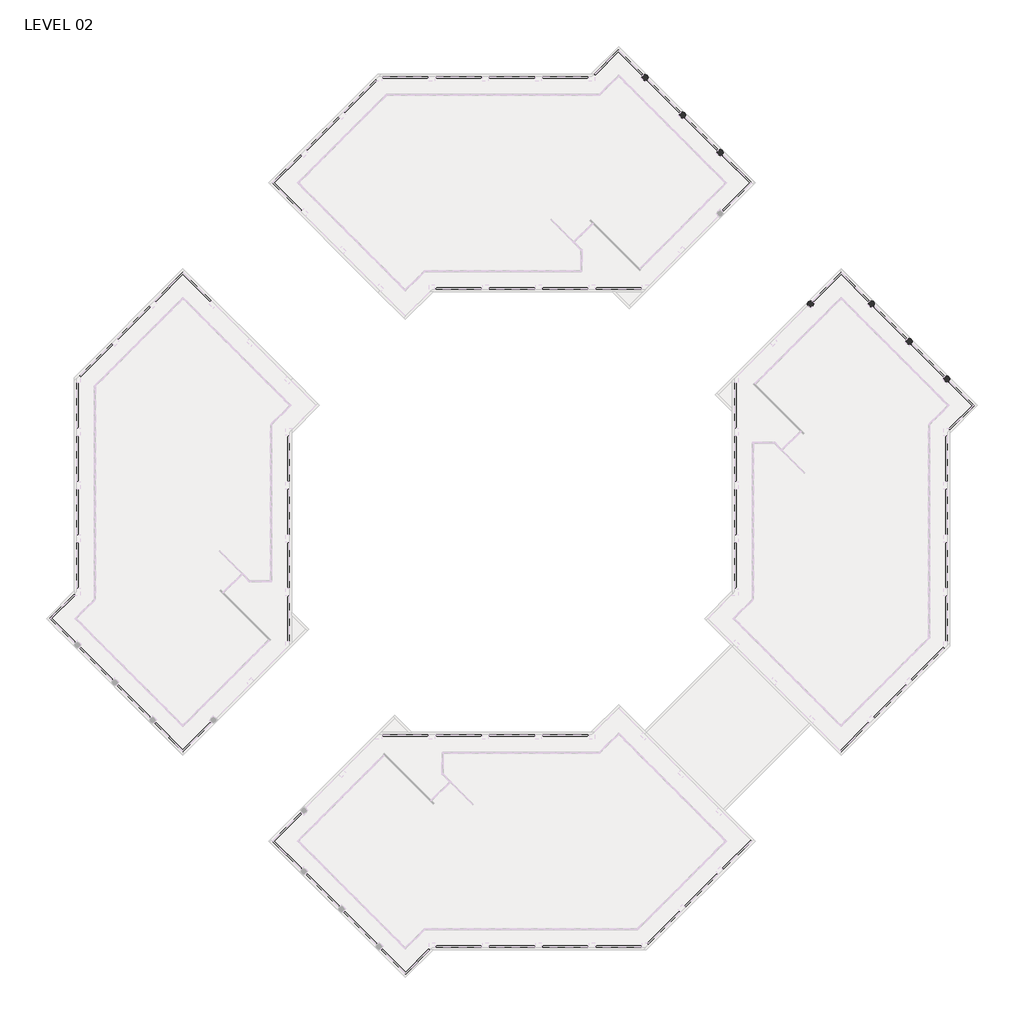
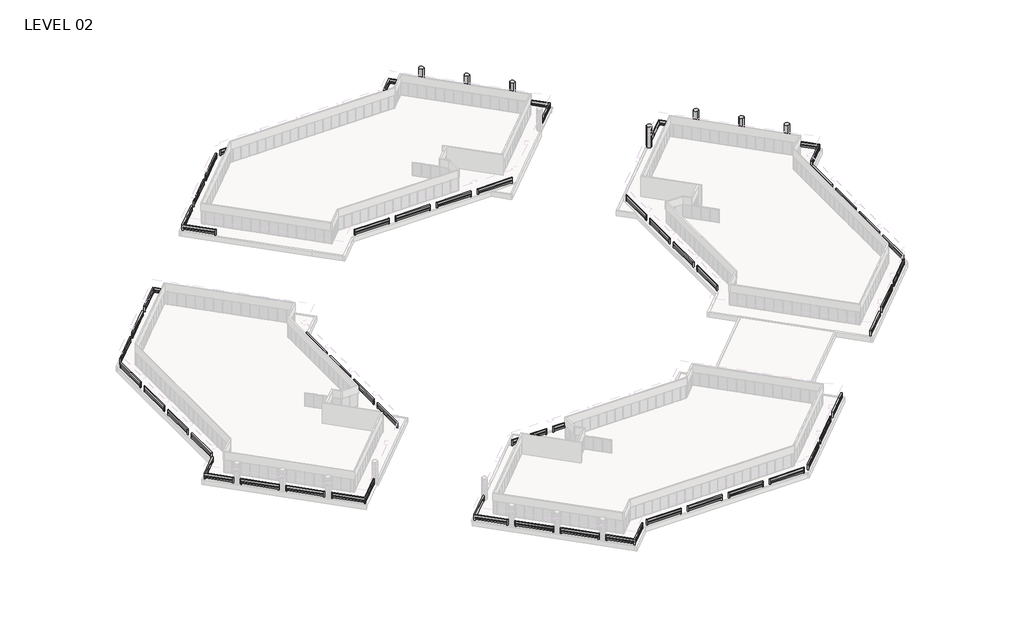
# One storey, part 19 of 19: 60 railings, 7 columns.
"""IFC4 building model written with IfcOpenShell, lengths in millimetres."""

from ifc_helpers import new_model, si_unit, point, frame, frame_2d, origin, place, context, project, spatial, circle_curve, trimmed, segment, composite_curve, outline, extrude, transform, mapped, element, save
from ifc_brep_helpers import plane_surface, cylinder_surface, advanced_brep
from components import railing_25_railing_25_railing_c438842d, railing_25_railing_25_railing_fa361975, equal_corner_railing_equal_corner_railing_5b2954d8, equal_corner_railing_equal_corner_railing_7f9a76b9, equal_corner_railing_demo_equal_corner_railing_demo_e16467f9, equal_corner_railing_demo_equal_corner_railing_demo_8632b08c, equal_corner_railing_small_equal_corner_railing_small_9601f2c6, equal_corner_railing_small_equal_corner_railing_small_101afe3f

model = new_model("IFC4")

# Units and contexts
model_context = context("Model", 3, world=origin())
ifc_project = project(units=[si_unit("LENGTHUNIT", "METRE", prefix="MILLI")], contexts=[model_context])

# Site, building, storey
site = spatial("IfcSite", under=ifc_project)
building = spatial("IfcBuilding", under=site)
storey = spatial("IfcBuildingStorey", under=building, Name="LEVEL 02", Elevation=4140.2)

# Columns
placement = place(None, origin())
element("IfcColumn", 1, ObjectType="Round Column : 36\" Diameter", at=placement, inside=storey, context=model_context, shape_type="SweptSolid", body=[
    extrude(outline(composite_curve([segment(trimmed(circle_curve(frame_2d((72511.6267654, 87272.1802036)), 457.2), [point((72511.6267654, 86814.9802036))], [point((72054.4267654, 87272.1802036))], False, "CARTESIAN"), True, "CONTINUOUS"), segment(trimmed(circle_curve(frame_2d((72511.6267654, 87272.1802036)), 457.2), [point((72054.4267654, 87272.1802036))], [point((72511.6267654, 87729.3802036))], False, "CARTESIAN"), True, "CONTINUOUS"), segment(trimmed(circle_curve(frame_2d((72511.6267654, 87272.1802036)), 457.2), [point((72511.6267654, 87729.3802036))], [point((72511.6267654, 86814.9802036))], False, "CARTESIAN"), True, "CONTINUOUS")], self_intersect=False)), frame((0.0, 0.0, 4140.2), z_axis=(0.0, 0.0, 1.0), x_axis=(1.0, 0.0, 0.0)), (0.0, 0.0, 1.0), 4140.2),
])
element("IfcColumn", 2, ObjectType="Round Column : 36\" Diameter", at=placement, inside=storey, context=model_context, shape_type="AdvancedBrep", body=[
    advanced_brep(
    [(80730.8926674, 87272.0755396, 4140.2), (81188.0926674, 87729.2755396, 4140.2), (81188.0926674, 86814.8755396, 4140.2), (81188.0926674, 87729.2755396, 6731.0), (81511.3818878, 87595.3647599, 6731.0), (81600.6557409, 87075.038613, 6731.0), (81600.6557409, 87075.038613, 7721.6), (81511.3818878, 87595.3647599, 7721.6), (81188.0926674, 87729.2755396, 7721.6), (81188.0926674, 87729.2755396, 8280.4), (81188.0926674, 86814.8755396, 8280.4), (80730.8926674, 87272.0755396, 8280.4), (80991.0557409, 87684.638613, 7721.6), (80991.0557409, 87684.638613, 6731.0)],
    [
        (0, 1, circle_curve(frame((81188.0926674, 87272.0755396, 4140.2), z_axis=(0.0, 0.0, -1.0), x_axis=(0.0, 1.0, 0.0)), 457.2)),
        (1, 2, circle_curve(frame((81188.0926674, 87272.0755396, 4140.2), z_axis=(0.0, 0.0, -1.0), x_axis=(0.0, 1.0, 0.0)), 457.2)),
        (2, 0, circle_curve(frame((81188.0926674, 87272.0755396, 4140.2), z_axis=(0.0, 0.0, -1.0), x_axis=(0.0, 1.0, 0.0)), 457.2)),
        (1, 3),
        (3, 4, circle_curve(frame((81188.0926674, 87272.0755396, 6731.0), z_axis=(0.0, 0.0, -1.0), x_axis=(0.0, 1.0, 0.0)), 457.2)),
        (4, 5, circle_curve(frame((81188.0926674, 87272.0755396, 6731.0), z_axis=(0.0, 0.0, -1.0), x_axis=(0.0, 1.0, 0.0)), 457.2)),
        (5, 6),
        (6, 7, circle_curve(frame((81188.0926674, 87272.0755396, 7721.6), z_axis=(0.0, 0.0, 1.0), x_axis=(0.0, 1.0, 0.0)), 457.2)),
        (7, 8, circle_curve(frame((81188.0926674, 87272.0755396, 7721.6), z_axis=(0.0, 0.0, 1.0), x_axis=(0.0, 1.0, 0.0)), 457.2)),
        (8, 9),
        (9, 10, circle_curve(frame((81188.0926674, 87272.0755396, 8280.4), z_axis=(0.0, 0.0, -1.0), x_axis=(0.0, 1.0, 0.0)), 457.2)),
        (10, 2),
        (10, 11, circle_curve(frame((81188.0926674, 87272.0755396, 8280.4), z_axis=(0.0, 0.0, -1.0), x_axis=(0.0, 1.0, 0.0)), 457.2)),
        (11, 0),
        (11, 9, circle_curve(frame((81188.0926674, 87272.0755396, 8280.4), z_axis=(0.0, 0.0, -1.0), x_axis=(0.0, 1.0, 0.0)), 457.2)),
        (8, 12, circle_curve(frame((81188.0926674, 87272.0755396, 7721.6), z_axis=(0.0, 0.0, 1.0), x_axis=(0.0, 1.0, 0.0)), 457.2)),
        (12, 13),
        (13, 3, circle_curve(frame((81188.0926674, 87272.0755396, 6731.0), z_axis=(0.0, 0.0, -1.0), x_axis=(0.0, 1.0, 0.0)), 457.2)),
        (5, 13),
        (12, 6),
    ],
    [
        plane_surface(frame((81188.0926674, 87729.2755396, 4140.2), z_axis=(0.0, 0.0, -1.0), x_axis=(1.0, 0.0, 0.0))),
        cylinder_surface(frame((81188.0926674, 87272.0755396, 4140.2), z_axis=(0.0, 0.0, 1.0), x_axis=(0.0, 1.0, 0.0)), 457.2),
        plane_surface(frame((81188.0926674, 87729.2755396, 8280.4), z_axis=(0.0, 0.0, 1.0), x_axis=(-1.0, 0.0, 0.0))),
        plane_surface(frame((96133.2529123, 72542.4414416, 6731.0), z_axis=(0.7071067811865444, 0.7071067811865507, 0.0), x_axis=(0.7071067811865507, -0.7071067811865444, 0.0))),
        plane_surface(frame((96241.0159857, 72865.730662, 6731.0), z_axis=(0.0, 0.0, 1.0000000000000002), x_axis=(-0.7071067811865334, -0.7071067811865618, 0.0))),
        plane_surface(frame((76957.6227899, 92149.1238578, 7721.6), z_axis=(0.0, 0.0, -1.0000000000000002), x_axis=(-0.7071067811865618, -0.7071067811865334, 0.0))),
    ],
    [
        (0, [[1, 2, 3]]),
        (1, [[-2, 4, 5, 6, 7, 8, 9, 10, 11, 12]]),
        (1, [[-3, -12, 13, 14]]),
        (1, [[-1, -14, 15, -10, 16, 17, 18, -4]]),
        (2, [[-11, -15, -13]]),
        (3, [[19, -17, 20, -7]]),
        (4, [[-19, -6, -5, -18]]),
        (5, [[-20, -16, -9, -8]]),
    ],
),
])
element("IfcColumn", 3, ObjectType="Round Column : 36\" Diameter", at=placement, inside=storey, context=model_context, shape_type="AdvancedBrep", body=[
    advanced_brep(
    [(86118.8676674, 81884.1005396, 4140.2), (86576.0676674, 82341.3005396, 4140.2), (86576.0676674, 81426.9005396, 4140.2), (86576.0676674, 82341.3005396, 6731.0), (86899.3568878, 82207.3897599, 6731.0), (86988.6307409, 81687.063613, 6731.0), (86988.6307409, 81687.063613, 7721.6), (86899.3568878, 82207.3897599, 7721.6), (86576.0676674, 82341.3005396, 7721.6), (86576.0676674, 82341.3005396, 8280.4), (86576.0676674, 81426.9005396, 8280.4), (86118.8676674, 81884.1005396, 8280.4), (86379.0307409, 82296.663613, 7721.6), (86379.0307409, 82296.663613, 6731.0)],
    [
        (0, 1, circle_curve(frame((86576.0676674, 81884.1005396, 4140.2), z_axis=(0.0, 0.0, -1.0), x_axis=(0.0, 1.0, 0.0)), 457.2)),
        (1, 2, circle_curve(frame((86576.0676674, 81884.1005396, 4140.2), z_axis=(0.0, 0.0, -1.0), x_axis=(0.0, 1.0, 0.0)), 457.2)),
        (2, 0, circle_curve(frame((86576.0676674, 81884.1005396, 4140.2), z_axis=(0.0, 0.0, -1.0), x_axis=(0.0, 1.0, 0.0)), 457.2)),
        (1, 3),
        (3, 4, circle_curve(frame((86576.0676674, 81884.1005396, 6731.0), z_axis=(0.0, 0.0, -1.0), x_axis=(0.0, 1.0, 0.0)), 457.2)),
        (4, 5, circle_curve(frame((86576.0676674, 81884.1005396, 6731.0), z_axis=(0.0, 0.0, -1.0), x_axis=(0.0, 1.0, 0.0)), 457.2)),
        (5, 6),
        (6, 7, circle_curve(frame((86576.0676674, 81884.1005396, 7721.6), z_axis=(0.0, 0.0, 1.0), x_axis=(0.0, 1.0, 0.0)), 457.2)),
        (7, 8, circle_curve(frame((86576.0676674, 81884.1005396, 7721.6), z_axis=(0.0, 0.0, 1.0), x_axis=(0.0, 1.0, 0.0)), 457.2)),
        (8, 9),
        (9, 10, circle_curve(frame((86576.0676674, 81884.1005396, 8280.4), z_axis=(0.0, 0.0, -1.0), x_axis=(0.0, 1.0, 0.0)), 457.2)),
        (10, 2),
        (10, 11, circle_curve(frame((86576.0676674, 81884.1005396, 8280.4), z_axis=(0.0, 0.0, -1.0), x_axis=(0.0, 1.0, 0.0)), 457.2)),
        (11, 0),
        (11, 9, circle_curve(frame((86576.0676674, 81884.1005396, 8280.4), z_axis=(0.0, 0.0, -1.0), x_axis=(0.0, 1.0, 0.0)), 457.2)),
        (8, 12, circle_curve(frame((86576.0676674, 81884.1005396, 7721.6), z_axis=(0.0, 0.0, 1.0), x_axis=(0.0, 1.0, 0.0)), 457.2)),
        (12, 13),
        (13, 3, circle_curve(frame((86576.0676674, 81884.1005396, 6731.0), z_axis=(0.0, 0.0, -1.0), x_axis=(0.0, 1.0, 0.0)), 457.2)),
        (5, 13),
        (12, 6),
    ],
    [
        plane_surface(frame((86576.0676674, 82341.3005396, 4140.2), z_axis=(0.0, 0.0, -1.0), x_axis=(1.0, 0.0, 0.0))),
        cylinder_surface(frame((86576.0676674, 81884.1005396, 4140.2), z_axis=(0.0, 0.0, 1.0), x_axis=(0.0, 1.0, 0.0)), 457.2),
        plane_surface(frame((86576.0676674, 82341.3005396, 8280.4), z_axis=(0.0, 0.0, 1.0), x_axis=(-1.0, 0.0, 0.0))),
        plane_surface(frame((96133.2529123, 72542.4414416, 6731.0), z_axis=(0.7071067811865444, 0.7071067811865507, 0.0), x_axis=(0.7071067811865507, -0.7071067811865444, 0.0))),
        plane_surface(frame((96241.0159857, 72865.730662, 6731.0), z_axis=(0.0, 0.0, 1.0000000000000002), x_axis=(-0.7071067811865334, -0.7071067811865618, 0.0))),
        plane_surface(frame((76957.6227899, 92149.1238578, 7721.6), z_axis=(0.0, 0.0, -1.0000000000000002), x_axis=(-0.7071067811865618, -0.7071067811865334, 0.0))),
    ],
    [
        (0, [[1, 2, 3]]),
        (1, [[-2, 4, 5, 6, 7, 8, 9, 10, 11, 12]]),
        (1, [[-3, -12, 13, 14]]),
        (1, [[-1, -14, 15, -10, 16, 17, 18, -4]]),
        (2, [[-11, -15, -13]]),
        (3, [[19, -17, 20, -7]]),
        (4, [[-19, -6, -5, -18]]),
        (5, [[-20, -16, -9, -8]]),
    ],
),
])
element("IfcColumn", 4, ObjectType="Round Column : 36\" Diameter", at=placement, inside=storey, context=model_context, shape_type="AdvancedBrep", body=[
    advanced_brep(
    [(91477.0847164, 76525.8834906, 4140.2), (91934.2847164, 76983.0834906, 4140.2), (91934.2847164, 76068.6834906, 4140.2), (91934.2847164, 76983.0834906, 6731.0), (92257.5739368, 76849.1727109, 6731.0), (92346.8477899, 76328.846564, 6731.0), (92346.8477899, 76328.846564, 7721.6), (92257.5739368, 76849.1727109, 7721.6), (91934.2847164, 76983.0834906, 7721.6), (91934.2847164, 76983.0834906, 8280.4), (91934.2847164, 76068.6834906, 8280.4), (91477.0847164, 76525.8834906, 8280.4), (91737.2477899, 76938.446564, 7721.6), (91737.2477899, 76938.446564, 6731.0)],
    [
        (0, 1, circle_curve(frame((91934.2847164, 76525.8834906, 4140.2), z_axis=(0.0, 0.0, -1.0), x_axis=(0.0, 1.0, 0.0)), 457.2)),
        (1, 2, circle_curve(frame((91934.2847164, 76525.8834906, 4140.2), z_axis=(0.0, 0.0, -1.0), x_axis=(0.0, 1.0, 0.0)), 457.2)),
        (2, 0, circle_curve(frame((91934.2847164, 76525.8834906, 4140.2), z_axis=(0.0, 0.0, -1.0), x_axis=(0.0, 1.0, 0.0)), 457.2)),
        (1, 3),
        (3, 4, circle_curve(frame((91934.2847164, 76525.8834906, 6731.0), z_axis=(0.0, 0.0, -1.0), x_axis=(0.0, 1.0, 0.0)), 457.2)),
        (4, 5, circle_curve(frame((91934.2847164, 76525.8834906, 6731.0), z_axis=(0.0, 0.0, -1.0), x_axis=(0.0, 1.0, 0.0)), 457.2)),
        (5, 6),
        (6, 7, circle_curve(frame((91934.2847164, 76525.8834906, 7721.6), z_axis=(0.0, 0.0, 1.0), x_axis=(0.0, 1.0, 0.0)), 457.2)),
        (7, 8, circle_curve(frame((91934.2847164, 76525.8834906, 7721.6), z_axis=(0.0, 0.0, 1.0), x_axis=(0.0, 1.0, 0.0)), 457.2)),
        (8, 9),
        (9, 10, circle_curve(frame((91934.2847164, 76525.8834906, 8280.4), z_axis=(0.0, 0.0, -1.0), x_axis=(0.0, 1.0, 0.0)), 457.2)),
        (10, 2),
        (10, 11, circle_curve(frame((91934.2847164, 76525.8834906, 8280.4), z_axis=(0.0, 0.0, -1.0), x_axis=(0.0, 1.0, 0.0)), 457.2)),
        (11, 0),
        (11, 9, circle_curve(frame((91934.2847164, 76525.8834906, 8280.4), z_axis=(0.0, 0.0, -1.0), x_axis=(0.0, 1.0, 0.0)), 457.2)),
        (8, 12, circle_curve(frame((91934.2847164, 76525.8834906, 7721.6), z_axis=(0.0, 0.0, 1.0), x_axis=(0.0, 1.0, 0.0)), 457.2)),
        (12, 13),
        (13, 3, circle_curve(frame((91934.2847164, 76525.8834906, 6731.0), z_axis=(0.0, 0.0, -1.0), x_axis=(0.0, 1.0, 0.0)), 457.2)),
        (5, 13),
        (12, 6),
    ],
    [
        plane_surface(frame((91934.2847164, 76983.0834906, 4140.2), z_axis=(0.0, 0.0, -1.0), x_axis=(1.0, 0.0, 0.0))),
        cylinder_surface(frame((91934.2847164, 76525.8834906, 4140.2), z_axis=(0.0, 0.0, 1.0), x_axis=(0.0, 1.0, 0.0)), 457.2),
        plane_surface(frame((91934.2847164, 76983.0834906, 8280.4), z_axis=(0.0, 0.0, 1.0), x_axis=(-1.0, 0.0, 0.0))),
        plane_surface(frame((96133.2529123, 72542.4414416, 6731.0), z_axis=(0.7071067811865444, 0.7071067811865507, 0.0), x_axis=(0.7071067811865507, -0.7071067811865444, 0.0))),
        plane_surface(frame((96241.0159857, 72865.730662, 6731.0), z_axis=(0.0, 0.0, 1.0000000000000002), x_axis=(-0.7071067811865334, -0.7071067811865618, 0.0))),
        plane_surface(frame((76957.6227899, 92149.1238578, 7721.6), z_axis=(0.0, 0.0, -1.0000000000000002), x_axis=(-0.7071067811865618, -0.7071067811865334, 0.0))),
    ],
    [
        (0, [[1, 2, 3]]),
        (1, [[-2, 4, 5, 6, 7, 8, 9, 10, 11, 12]]),
        (1, [[-3, -12, 13, 14]]),
        (1, [[-1, -14, 15, -10, 16, 17, 18, -4]]),
        (2, [[-11, -15, -13]]),
        (3, [[19, -17, 20, -7]]),
        (4, [[-19, -6, -5, -18]]),
        (5, [[-20, -16, -9, -8]]),
    ],
),
])
element("IfcColumn", 5, ObjectType="Round Column : 36\" Diameter", at=placement, inside=storey, context=model_context, shape_type="AdvancedBrep", body=[
    advanced_brep(
    [(60037.257951, 108880.110256, 4140.2), (59580.057951, 108422.910256, 4140.2), (59122.857951, 108880.110256, 4140.2), (59122.857951, 108880.110256, 8280.4), (60037.257951, 108880.110256, 8280.4), (60037.257951, 108880.110256, 7721.6), (59903.3471714, 109203.3994763, 7721.6), (59383.0210245, 109292.6733294, 7721.6), (59383.0210245, 109292.6733294, 6731.0), (59903.3471714, 109203.3994763, 6731.0), (60037.257951, 108880.110256, 6731.0), (59580.057951, 108422.910256, 8280.4), (59992.6210245, 108683.0733294, 6731.0), (59992.6210245, 108683.0733294, 7721.6)],
    [
        (0, 1, circle_curve(frame((59580.057951, 108880.110256, 4140.2), z_axis=(0.0, 0.0, -1.0), x_axis=(1.0, 0.0, 0.0)), 457.2)),
        (1, 2, circle_curve(frame((59580.057951, 108880.110256, 4140.2), z_axis=(0.0, 0.0, -1.0), x_axis=(1.0, 0.0, 0.0)), 457.2)),
        (2, 0, circle_curve(frame((59580.057951, 108880.110256, 4140.2), z_axis=(0.0, 0.0, -1.0), x_axis=(1.0, 0.0, 0.0)), 457.2)),
        (2, 3),
        (3, 4, circle_curve(frame((59580.057951, 108880.110256, 8280.4), z_axis=(0.0, 0.0, -1.0), x_axis=(1.0, 0.0, 0.0)), 457.2)),
        (4, 5),
        (5, 6, circle_curve(frame((59580.057951, 108880.110256, 7721.6), z_axis=(0.0, 0.0, 1.0), x_axis=(1.0, 0.0, 0.0)), 457.2)),
        (6, 7, circle_curve(frame((59580.057951, 108880.110256, 7721.6), z_axis=(0.0, 0.0, 1.0), x_axis=(1.0, 0.0, 0.0)), 457.2)),
        (7, 8),
        (8, 9, circle_curve(frame((59580.057951, 108880.110256, 6731.0), z_axis=(0.0, 0.0, -1.0), x_axis=(1.0, 0.0, 0.0)), 457.2)),
        (9, 10, circle_curve(frame((59580.057951, 108880.110256, 6731.0), z_axis=(0.0, 0.0, -1.0), x_axis=(1.0, 0.0, 0.0)), 457.2)),
        (10, 0),
        (1, 11),
        (11, 3, circle_curve(frame((59580.057951, 108880.110256, 8280.4), z_axis=(0.0, 0.0, -1.0), x_axis=(1.0, 0.0, 0.0)), 457.2)),
        (10, 12, circle_curve(frame((59580.057951, 108880.110256, 6731.0), z_axis=(0.0, 0.0, -1.0), x_axis=(1.0, 0.0, 0.0)), 457.2)),
        (12, 13),
        (13, 5, circle_curve(frame((59580.057951, 108880.110256, 7721.6), z_axis=(0.0, 0.0, 1.0), x_axis=(1.0, 0.0, 0.0)), 457.2)),
        (4, 11, circle_curve(frame((59580.057951, 108880.110256, 8280.4), z_axis=(0.0, 0.0, -1.0), x_axis=(1.0, 0.0, 0.0)), 457.2)),
        (7, 13),
        (12, 8),
    ],
    [
        plane_surface(frame((60037.257951, 108880.110256, 4140.2), z_axis=(0.0, 0.0, -1.0), x_axis=(0.0, 1.0, 0.0))),
        cylinder_surface(frame((59580.057951, 108880.110256, 4140.2), z_axis=(0.0, 0.0, 1.0), x_axis=(1.0, 0.0, 0.0)), 457.2),
        plane_surface(frame((60037.257951, 108880.110256, 8280.4), z_axis=(0.0, 0.0, 1.0), x_axis=(0.0, -1.0, 0.0))),
        plane_surface(frame((44850.4238531, 123825.2705008, 6731.0), z_axis=(0.7071067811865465, 0.7071067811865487, 0.0), x_axis=(0.7071067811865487, -0.7071067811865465, 0.0))),
        plane_surface(frame((44958.1869265, 123717.5074273, 6731.0), z_axis=(0.0, 0.0, 1.0000000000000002), x_axis=(0.7071067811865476, 0.7071067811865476, 0.0))),
        plane_surface(frame((64241.5801224, 104434.1142315, 7721.6), z_axis=(0.0, 0.0, -1.0000000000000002), x_axis=(0.7071067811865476, 0.7071067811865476, 0.0))),
    ],
    [
        (0, [[1, 2, 3]]),
        (1, [[-3, 4, 5, 6, 7, 8, 9, 10, 11, 12]]),
        (1, [[-2, 13, 14, -4]]),
        (1, [[-1, -12, 15, 16, 17, -6, 18, -13]]),
        (2, [[-5, -14, -18]]),
        (3, [[19, -16, 20, -9]]),
        (4, [[-20, -15, -11, -10]]),
        (5, [[-19, -8, -7, -17]]),
    ],
),
])
element("IfcColumn", 6, ObjectType="Round Column : 36\" Diameter", at=placement, inside=storey, context=model_context, shape_type="AdvancedBrep", body=[
    advanced_brep(
    [(54649.282951, 114268.085256, 4140.2), (54192.082951, 113810.885256, 4140.2), (53734.882951, 114268.085256, 4140.2), (53734.882951, 114268.085256, 8280.4), (54649.282951, 114268.085256, 8280.4), (54649.282951, 114268.085256, 7721.6), (54515.3721714, 114591.3744763, 7721.6), (53995.0460245, 114680.6483294, 7721.6), (53995.0460245, 114680.6483294, 6731.0), (54515.3721714, 114591.3744763, 6731.0), (54649.282951, 114268.085256, 6731.0), (54192.082951, 113810.885256, 8280.4), (54604.6460245, 114071.0483294, 6731.0), (54604.6460245, 114071.0483294, 7721.6)],
    [
        (0, 1, circle_curve(frame((54192.082951, 114268.085256, 4140.2), z_axis=(0.0, 0.0, -1.0), x_axis=(1.0, 0.0, 0.0)), 457.2)),
        (1, 2, circle_curve(frame((54192.082951, 114268.085256, 4140.2), z_axis=(0.0, 0.0, -1.0), x_axis=(1.0, 0.0, 0.0)), 457.2)),
        (2, 0, circle_curve(frame((54192.082951, 114268.085256, 4140.2), z_axis=(0.0, 0.0, -1.0), x_axis=(1.0, 0.0, 0.0)), 457.2)),
        (2, 3),
        (3, 4, circle_curve(frame((54192.082951, 114268.085256, 8280.4), z_axis=(0.0, 0.0, -1.0), x_axis=(1.0, 0.0, 0.0)), 457.2)),
        (4, 5),
        (5, 6, circle_curve(frame((54192.082951, 114268.085256, 7721.6), z_axis=(0.0, 0.0, 1.0), x_axis=(1.0, 0.0, 0.0)), 457.2)),
        (6, 7, circle_curve(frame((54192.082951, 114268.085256, 7721.6), z_axis=(0.0, 0.0, 1.0), x_axis=(1.0, 0.0, 0.0)), 457.2)),
        (7, 8),
        (8, 9, circle_curve(frame((54192.082951, 114268.085256, 6731.0), z_axis=(0.0, 0.0, -1.0), x_axis=(1.0, 0.0, 0.0)), 457.2)),
        (9, 10, circle_curve(frame((54192.082951, 114268.085256, 6731.0), z_axis=(0.0, 0.0, -1.0), x_axis=(1.0, 0.0, 0.0)), 457.2)),
        (10, 0),
        (1, 11),
        (11, 3, circle_curve(frame((54192.082951, 114268.085256, 8280.4), z_axis=(0.0, 0.0, -1.0), x_axis=(1.0, 0.0, 0.0)), 457.2)),
        (10, 12, circle_curve(frame((54192.082951, 114268.085256, 6731.0), z_axis=(0.0, 0.0, -1.0), x_axis=(1.0, 0.0, 0.0)), 457.2)),
        (12, 13),
        (13, 5, circle_curve(frame((54192.082951, 114268.085256, 7721.6), z_axis=(0.0, 0.0, 1.0), x_axis=(1.0, 0.0, 0.0)), 457.2)),
        (4, 11, circle_curve(frame((54192.082951, 114268.085256, 8280.4), z_axis=(0.0, 0.0, -1.0), x_axis=(1.0, 0.0, 0.0)), 457.2)),
        (7, 13),
        (12, 8),
    ],
    [
        plane_surface(frame((54649.282951, 114268.085256, 4140.2), z_axis=(0.0, 0.0, -1.0), x_axis=(0.0, 1.0, 0.0))),
        cylinder_surface(frame((54192.082951, 114268.085256, 4140.2), z_axis=(0.0, 0.0, 1.0), x_axis=(1.0, 0.0, 0.0)), 457.2),
        plane_surface(frame((54649.282951, 114268.085256, 8280.4), z_axis=(0.0, 0.0, 1.0), x_axis=(0.0, -1.0, 0.0))),
        plane_surface(frame((44850.4238531, 123825.2705008, 6731.0), z_axis=(0.7071067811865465, 0.7071067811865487, 0.0), x_axis=(0.7071067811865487, -0.7071067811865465, 0.0))),
        plane_surface(frame((44958.1869265, 123717.5074273, 6731.0), z_axis=(0.0, 0.0, 1.0000000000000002), x_axis=(0.7071067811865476, 0.7071067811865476, 0.0))),
        plane_surface(frame((64241.5801224, 104434.1142315, 7721.6), z_axis=(0.0, 0.0, -1.0000000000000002), x_axis=(0.7071067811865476, 0.7071067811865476, 0.0))),
    ],
    [
        (0, [[1, 2, 3]]),
        (1, [[-3, 4, 5, 6, 7, 8, 9, 10, 11, 12]]),
        (1, [[-2, 13, 14, -4]]),
        (1, [[-1, -12, 15, 16, 17, -6, 18, -13]]),
        (2, [[-5, -14, -18]]),
        (3, [[19, -16, 20, -9]]),
        (4, [[-20, -15, -11, -10]]),
        (5, [[-19, -8, -7, -17]]),
    ],
),
])
element("IfcColumn", 7, ObjectType="Round Column : 36\" Diameter", at=placement, inside=storey, context=model_context, shape_type="AdvancedBrep", body=[
    advanced_brep(
    [(49291.0659021, 119626.3023049, 4140.2), (48833.8659021, 119169.1023049, 4140.2), (48376.6659021, 119626.3023049, 4140.2), (48376.6659021, 119626.3023049, 8280.4), (49291.0659021, 119626.3023049, 8280.4), (49291.0659021, 119626.3023049, 7721.6), (49157.1551224, 119949.5915253, 7721.6), (48636.8289755, 120038.8653784, 7721.6), (48636.8289755, 120038.8653784, 6731.0), (49157.1551224, 119949.5915253, 6731.0), (49291.0659021, 119626.3023049, 6731.0), (48833.8659021, 119169.1023049, 8280.4), (49246.4289755, 119429.2653784, 6731.0), (49246.4289755, 119429.2653784, 7721.6)],
    [
        (0, 1, circle_curve(frame((48833.8659021, 119626.3023049, 4140.2), z_axis=(0.0, 0.0, -1.0), x_axis=(1.0, 0.0, 0.0)), 457.2)),
        (1, 2, circle_curve(frame((48833.8659021, 119626.3023049, 4140.2), z_axis=(0.0, 0.0, -1.0), x_axis=(1.0, 0.0, 0.0)), 457.2)),
        (2, 0, circle_curve(frame((48833.8659021, 119626.3023049, 4140.2), z_axis=(0.0, 0.0, -1.0), x_axis=(1.0, 0.0, 0.0)), 457.2)),
        (2, 3),
        (3, 4, circle_curve(frame((48833.8659021, 119626.3023049, 8280.4), z_axis=(0.0, 0.0, -1.0), x_axis=(1.0, 0.0, 0.0)), 457.2)),
        (4, 5),
        (5, 6, circle_curve(frame((48833.8659021, 119626.3023049, 7721.6), z_axis=(0.0, 0.0, 1.0), x_axis=(1.0, 0.0, 0.0)), 457.2)),
        (6, 7, circle_curve(frame((48833.8659021, 119626.3023049, 7721.6), z_axis=(0.0, 0.0, 1.0), x_axis=(1.0, 0.0, 0.0)), 457.2)),
        (7, 8),
        (8, 9, circle_curve(frame((48833.8659021, 119626.3023049, 6731.0), z_axis=(0.0, 0.0, -1.0), x_axis=(1.0, 0.0, 0.0)), 457.2)),
        (9, 10, circle_curve(frame((48833.8659021, 119626.3023049, 6731.0), z_axis=(0.0, 0.0, -1.0), x_axis=(1.0, 0.0, 0.0)), 457.2)),
        (10, 0),
        (1, 11),
        (11, 3, circle_curve(frame((48833.8659021, 119626.3023049, 8280.4), z_axis=(0.0, 0.0, -1.0), x_axis=(1.0, 0.0, 0.0)), 457.2)),
        (10, 12, circle_curve(frame((48833.8659021, 119626.3023049, 6731.0), z_axis=(0.0, 0.0, -1.0), x_axis=(1.0, 0.0, 0.0)), 457.2)),
        (12, 13),
        (13, 5, circle_curve(frame((48833.8659021, 119626.3023049, 7721.6), z_axis=(0.0, 0.0, 1.0), x_axis=(1.0, 0.0, 0.0)), 457.2)),
        (4, 11, circle_curve(frame((48833.8659021, 119626.3023049, 8280.4), z_axis=(0.0, 0.0, -1.0), x_axis=(1.0, 0.0, 0.0)), 457.2)),
        (7, 13),
        (12, 8),
    ],
    [
        plane_surface(frame((49291.0659021, 119626.3023049, 4140.2), z_axis=(0.0, 0.0, -1.0), x_axis=(0.0, 1.0, 0.0))),
        cylinder_surface(frame((48833.8659021, 119626.3023049, 4140.2), z_axis=(0.0, 0.0, 1.0), x_axis=(1.0, 0.0, 0.0)), 457.2),
        plane_surface(frame((49291.0659021, 119626.3023049, 8280.4), z_axis=(0.0, 0.0, 1.0), x_axis=(0.0, -1.0, 0.0))),
        plane_surface(frame((44850.4238531, 123825.2705008, 6731.0), z_axis=(0.7071067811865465, 0.7071067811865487, 0.0), x_axis=(0.7071067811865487, -0.7071067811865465, 0.0))),
        plane_surface(frame((44958.1869265, 123717.5074273, 6731.0), z_axis=(0.0, 0.0, 1.0000000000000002), x_axis=(0.7071067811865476, 0.7071067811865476, 0.0))),
        plane_surface(frame((64241.5801224, 104434.1142315, 7721.6), z_axis=(0.0, 0.0, -1.0000000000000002), x_axis=(0.7071067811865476, 0.7071067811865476, 0.0))),
    ],
    [
        (0, [[1, 2, 3]]),
        (1, [[-3, 4, 5, 6, 7, 8, 9, 10, 11, 12]]),
        (1, [[-2, 13, 14, -4]]),
        (1, [[-1, -12, 15, 16, 17, -6, 18, -13]]),
        (2, [[-5, -14, -18]]),
        (3, [[19, -16, 20, -9]]),
        (4, [[-20, -15, -11, -10]]),
        (5, [[-19, -8, -7, -17]]),
    ],
),
])

# Railings
railing_25_railing_25_railing_shape = railing_25_railing_25_railing_c438842d(model_context)
element("IfcRailing", 8, ObjectType="25' railing : 25' railing", at=placement, inside=storey, context=model_context, shape_type="MappedRepresentation", body=[
    mapped(railing_25_railing_25_railing_shape, transform((29825.95, -4590.3671279, 4140.2), x_axis=(1.0, 0.0, 0.0), y_axis=(0.0, 1.0, 0.0), z_axis=(0.0, 0.0, 1.0))),
])
element("IfcRailing", 9, ObjectType="25' railing : 25' railing", at=placement, inside=storey, context=model_context, shape_type="MappedRepresentation", body=[
    mapped(railing_25_railing_25_railing_shape, transform((37445.95, -4590.3671279, 4140.2), x_axis=(1.0, 0.0, 0.0), y_axis=(0.0, 1.0, 0.0), z_axis=(0.0, 0.0, 1.0))),
])
element("IfcRailing", 10, ObjectType="25' railing : 25' railing", at=placement, inside=storey, context=model_context, shape_type="MappedRepresentation", body=[
    mapped(railing_25_railing_25_railing_shape, transform((45065.95, -4590.3671279, 4140.2), x_axis=(1.0, 0.0, 0.0), y_axis=(0.0, 1.0, 0.0), z_axis=(0.0, 0.0, 1.0))),
])
element("IfcRailing", 11, ObjectType="25' railing : 25' railing", at=placement, inside=storey, context=model_context, shape_type="MappedRepresentation", body=[
    mapped(railing_25_railing_25_railing_shape, transform((22205.95, -4590.3671279, 4140.2), x_axis=(1.0, 0.0, 0.0), y_axis=(0.0, 1.0, 0.0), z_axis=(0.0, 0.0, 1.0))),
])
element("IfcRailing", 12, ObjectType="25' railing : 25' railing", at=placement, inside=storey, context=model_context, shape_type="MappedRepresentation", body=[
    mapped(railing_25_railing_25_railing_shape, transform((29825.95, 25578.4828721, 4140.2), x_axis=(1.0, 0.0, 0.0), y_axis=(0.0, 1.0, 0.0), z_axis=(0.0, 0.0, 1.0))),
])
element("IfcRailing", 13, ObjectType="25' railing : 25' railing", at=placement, inside=storey, context=model_context, shape_type="MappedRepresentation", body=[
    mapped(railing_25_railing_25_railing_shape, transform((37445.95, 25578.4828721, 4140.2), x_axis=(1.0, 0.0, 0.0), y_axis=(0.0, 1.0, 0.0), z_axis=(0.0, 0.0, 1.0))),
])
element("IfcRailing", 14, ObjectType="25' railing : 25' railing", at=placement, inside=storey, context=model_context, shape_type="MappedRepresentation", body=[
    mapped(railing_25_railing_25_railing_shape, transform((22205.95, 25578.4828721, 4140.2), x_axis=(1.0, 0.0, 0.0), y_axis=(0.0, 1.0, 0.0), z_axis=(0.0, 0.0, 1.0))),
])
element("IfcRailing", 15, ObjectType="25' railing : 25' railing", at=placement, inside=storey, context=model_context, shape_type="MappedRepresentation", body=[
    mapped(railing_25_railing_25_railing_shape, transform((51512.9744265, -1911.2586034, 4140.2), x_axis=(0.7071067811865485, 0.7071067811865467, 0.0), y_axis=(-0.7071067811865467, 0.7071067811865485, 0.0), z_axis=(0.0, 0.0, 1.0))),
])
element("IfcRailing", 16, ObjectType="25' railing : 25' railing", at=placement, inside=storey, context=model_context, shape_type="MappedRepresentation", body=[
    mapped(railing_25_railing_25_railing_shape, transform((8138.9255735, -1911.2586034, 4140.2), x_axis=(0.7071067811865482, -0.7071067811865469, 0.0), y_axis=(0.7071067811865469, 0.7071067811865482, 0.0), z_axis=(0.0, 0.0, 1.0))),
])
element("IfcRailing", 17, ObjectType="25' railing : 25' railing", at=placement, inside=storey, context=model_context, shape_type="MappedRepresentation", body=[
    mapped(railing_25_railing_25_railing_shape, transform((14585.95, 25578.4828721, 4140.2), x_axis=(1.0, 0.0, 0.0), y_axis=(0.0, 1.0, 0.0), z_axis=(0.0, 0.0, 1.0))),
])
element("IfcRailing", 18, ObjectType="25' railing : 25' railing", at=placement, inside=storey, context=model_context, shape_type="MappedRepresentation", body=[
    mapped(railing_25_railing_25_railing_shape, transform((83896.9591429, 30472.726113, 4140.2), x_axis=(0.7071067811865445, 0.7071067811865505, 0.0), y_axis=(-0.7071067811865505, 0.7071067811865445, 0.0), z_axis=(0.0, 0.0, 1.0))),
])
element("IfcRailing", 19, ObjectType="25' railing : 25' railing", at=placement, inside=storey, context=model_context, shape_type="MappedRepresentation", body=[
    mapped(railing_25_railing_25_railing_shape, transform((83896.9591429, 84563.209064, 4140.2), x_axis=(-0.7071067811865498, 0.7071067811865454, 0.0), y_axis=(-0.7071067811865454, -0.7071067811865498, 0.0), z_axis=(0.0, 0.0, 1.0))),
])
element("IfcRailing", 20, ObjectType="25' railing : 25' railing", at=placement, inside=storey, context=model_context, shape_type="MappedRepresentation", body=[
    mapped(railing_25_railing_25_railing_shape, transform((29825.95, 119626.3023049, 4140.2), x_axis=(-1.0, 0.0, 0.0), y_axis=(0.0, -1.0, 0.0), z_axis=(0.0, 0.0, 1.0))),
])
element("IfcRailing", 21, ObjectType="25' railing : 25' railing", at=placement, inside=storey, context=model_context, shape_type="MappedRepresentation", body=[
    mapped(railing_25_railing_25_railing_shape, transform((22205.95, 119626.3023049, 4140.2), x_axis=(-1.0, 0.0, 0.0), y_axis=(0.0, -1.0, 0.0), z_axis=(0.0, 0.0, 1.0))),
])
element("IfcRailing", 22, ObjectType="25' railing : 25' railing", at=placement, inside=storey, context=model_context, shape_type="MappedRepresentation", body=[
    mapped(railing_25_railing_25_railing_shape, transform((14585.95, 119626.3023049, 4140.2), x_axis=(-1.0, 0.0, 0.0), y_axis=(0.0, -1.0, 0.0), z_axis=(0.0, 0.0, 1.0))),
])
element("IfcRailing", 23, ObjectType="25' railing : 25' railing", at=placement, inside=storey, context=model_context, shape_type="MappedRepresentation", body=[
    mapped(railing_25_railing_25_railing_shape, transform((37445.95, 119626.3023049, 4140.2), x_axis=(-1.0, 0.0, 0.0), y_axis=(0.0, -1.0, 0.0), z_axis=(0.0, 0.0, 1.0))),
])
element("IfcRailing", 24, ObjectType="25' railing : 25' railing", at=placement, inside=storey, context=model_context, shape_type="MappedRepresentation", body=[
    mapped(railing_25_railing_25_railing_shape, transform((29825.95, 89457.4523049, 4140.2), x_axis=(-1.0, 0.0, 0.0), y_axis=(0.0, -1.0, 0.0), z_axis=(0.0, 0.0, 1.0))),
])
element("IfcRailing", 25, ObjectType="25' railing : 25' railing", at=placement, inside=storey, context=model_context, shape_type="MappedRepresentation", body=[
    mapped(railing_25_railing_25_railing_shape, transform((22205.95, 89457.4523049, 4140.2), x_axis=(-1.0, 0.0, 0.0), y_axis=(0.0, -1.0, 0.0), z_axis=(0.0, 0.0, 1.0))),
])
element("IfcRailing", 26, ObjectType="25' railing : 25' railing", at=placement, inside=storey, context=model_context, shape_type="MappedRepresentation", body=[
    mapped(railing_25_railing_25_railing_shape, transform((37445.95, 89457.4523049, 4140.2), x_axis=(-1.0, 0.0, 0.0), y_axis=(0.0, -1.0, 0.0), z_axis=(0.0, 0.0, 1.0))),
])
element("IfcRailing", 27, ObjectType="25' railing : 25' railing", at=placement, inside=storey, context=model_context, shape_type="MappedRepresentation", body=[
    mapped(railing_25_railing_25_railing_shape, transform((8138.9255735, 116947.1937804, 4140.2), x_axis=(-0.7071067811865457, -0.7071067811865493, 0.0), y_axis=(0.7071067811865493, -0.7071067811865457, 0.0), z_axis=(0.0, 0.0, 1.0))),
])
element("IfcRailing", 28, ObjectType="25' railing : 25' railing", at=placement, inside=storey, context=model_context, shape_type="MappedRepresentation", body=[
    mapped(railing_25_railing_25_railing_shape, transform((51512.9744265, 116947.1937804, 4140.2), x_axis=(-0.7071067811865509, 0.7071067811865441, 0.0), y_axis=(-0.7071067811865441, -0.7071067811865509, 0.0), z_axis=(0.0, 0.0, 1.0))),
])
element("IfcRailing", 29, ObjectType="25' railing : 25' railing", at=placement, inside=storey, context=model_context, shape_type="MappedRepresentation", body=[
    mapped(railing_25_railing_25_railing_shape, transform((45065.95, 89457.4523049, 4140.2), x_axis=(-1.0, 0.0, 0.0), y_axis=(0.0, -1.0, 0.0), z_axis=(0.0, 0.0, 1.0))),
])
element("IfcRailing", 30, ObjectType="25' railing : 25' railing", at=placement, inside=storey, context=model_context, shape_type="MappedRepresentation", body=[
    mapped(railing_25_railing_25_railing_shape, transform((-24245.0591429, 84563.209064, 4140.2), x_axis=(-0.7071067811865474, -0.7071067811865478, 0.0), y_axis=(0.7071067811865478, -0.7071067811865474, 0.0), z_axis=(0.0, 0.0, 1.0))),
])
element("IfcRailing", 31, ObjectType="25' railing : 25' railing", at=placement, inside=storey, context=model_context, shape_type="MappedRepresentation", body=[
    mapped(railing_25_railing_25_railing_shape, transform((-24245.0591429, 30472.726113, 4140.2), x_axis=(0.707106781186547, -0.7071067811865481, 0.0), y_axis=(0.7071067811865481, 0.707106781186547, 0.0), z_axis=(0.0, 0.0, 1.0))),
])
railing_25_railing_25_railing_2_shape = railing_25_railing_25_railing_fa361975(model_context)
element("IfcRailing", 32, ObjectType="25' railing : 25' railing", at=placement, inside=storey, context=model_context, shape_type="MappedRepresentation", body=[
    mapped(railing_25_railing_25_railing_2_shape, transform((56871.1914755, 3446.9584456, 4140.2), x_axis=(-0.707106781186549, -0.7071067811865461, 0.0), y_axis=(0.7071067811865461, -0.707106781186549, 0.0), z_axis=(0.0, 0.0, 1.0))),
])
element("IfcRailing", 33, ObjectType="25' railing : 25' railing", at=placement, inside=storey, context=model_context, shape_type="MappedRepresentation", body=[
    mapped(railing_25_railing_25_railing_2_shape, transform((2780.7085245, 3446.9584456, 4140.2), x_axis=(-0.7071067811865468, 0.7071067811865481, 0.0), y_axis=(-0.7071067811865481, -0.7071067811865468, 0.0), z_axis=(0.0, 0.0, 1.0))),
])
element("IfcRailing", 34, ObjectType="25' railing : 25' railing", at=placement, inside=storey, context=model_context, shape_type="MappedRepresentation", body=[
    mapped(railing_25_railing_25_railing_2_shape, transform((91934.2847164, 57517.9675885, 4140.2), x_axis=(0.0, -1.0, 0.0), y_axis=(1.0, 0.0, 0.0), z_axis=(0.0, 0.0, 1.0))),
])
element("IfcRailing", 35, ObjectType="25' railing : 25' railing", at=placement, inside=storey, context=model_context, shape_type="MappedRepresentation", body=[
    mapped(railing_25_railing_25_railing_2_shape, transform((91934.2847164, 49897.9675885, 4140.2), x_axis=(0.0, -1.0, 0.0), y_axis=(1.0, 0.0, 0.0), z_axis=(0.0, 0.0, 1.0))),
])
element("IfcRailing", 36, ObjectType="25' railing : 25' railing", at=placement, inside=storey, context=model_context, shape_type="MappedRepresentation", body=[
    mapped(railing_25_railing_25_railing_2_shape, transform((91934.2847164, 42277.9675885, 4140.2), x_axis=(0.0, -1.0, 0.0), y_axis=(1.0, 0.0, 0.0), z_axis=(0.0, 0.0, 1.0))),
])
element("IfcRailing", 37, ObjectType="25' railing : 25' railing", at=placement, inside=storey, context=model_context, shape_type="MappedRepresentation", body=[
    mapped(railing_25_railing_25_railing_2_shape, transform((91934.2847164, 65137.9675885, 4140.2), x_axis=(0.0, -1.0, 0.0), y_axis=(1.0, 0.0, 0.0), z_axis=(0.0, 0.0, 1.0))),
])
element("IfcRailing", 38, ObjectType="25' railing : 25' railing", at=placement, inside=storey, context=model_context, shape_type="MappedRepresentation", body=[
    mapped(railing_25_railing_25_railing_2_shape, transform((61765.4347164, 57517.9675885, 4140.2), x_axis=(0.0, -1.0, 0.0), y_axis=(1.0, 0.0, 0.0), z_axis=(0.0, 0.0, 1.0))),
])
element("IfcRailing", 39, ObjectType="25' railing : 25' railing", at=placement, inside=storey, context=model_context, shape_type="MappedRepresentation", body=[
    mapped(railing_25_railing_25_railing_2_shape, transform((61765.4347164, 49897.9675885, 4140.2), x_axis=(0.0, -1.0, 0.0), y_axis=(1.0, 0.0, 0.0), z_axis=(0.0, 0.0, 1.0))),
])
element("IfcRailing", 40, ObjectType="25' railing : 25' railing", at=placement, inside=storey, context=model_context, shape_type="MappedRepresentation", body=[
    mapped(railing_25_railing_25_railing_2_shape, transform((61765.4347164, 65137.9675885, 4140.2), x_axis=(0.0, -1.0, 0.0), y_axis=(1.0, 0.0, 0.0), z_axis=(0.0, 0.0, 1.0))),
])
element("IfcRailing", 41, ObjectType="25' railing : 25' railing", at=placement, inside=storey, context=model_context, shape_type="MappedRepresentation", body=[
    mapped(railing_25_railing_25_railing_2_shape, transform((89255.1761919, 35830.943162, 4140.2), x_axis=(-0.707106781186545, -0.7071067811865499, 0.0), y_axis=(0.7071067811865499, -0.707106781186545, 0.0), z_axis=(0.0, 0.0, 1.0))),
])
element("IfcRailing", 42, ObjectType="25' railing : 25' railing", at=placement, inside=storey, context=model_context, shape_type="MappedRepresentation", body=[
    mapped(railing_25_railing_25_railing_2_shape, transform((89255.1761919, 79204.9920151, 4140.2), x_axis=(0.7071067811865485, -0.7071067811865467, 0.0), y_axis=(0.7071067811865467, 0.7071067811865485, 0.0), z_axis=(0.0, 0.0, 1.0))),
])
element("IfcRailing", 43, ObjectType="25' railing : 25' railing", at=placement, inside=storey, context=model_context, shape_type="MappedRepresentation", body=[
    mapped(railing_25_railing_25_railing_2_shape, transform((61765.4347164, 72757.9675885, 4140.2), x_axis=(0.0, -1.0, 0.0), y_axis=(1.0, 0.0, 0.0), z_axis=(0.0, 0.0, 1.0))),
])
element("IfcRailing", 44, ObjectType="25' railing : 25' railing", at=placement, inside=storey, context=model_context, shape_type="MappedRepresentation", body=[
    mapped(railing_25_railing_25_railing_2_shape, transform((2780.7085245, 111588.9767315, 4140.2), x_axis=(0.7071067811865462, 0.7071067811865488, 0.0), y_axis=(-0.7071067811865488, 0.7071067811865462, 0.0), z_axis=(0.0, 0.0, 1.0))),
])
element("IfcRailing", 45, ObjectType="25' railing : 25' railing", at=placement, inside=storey, context=model_context, shape_type="MappedRepresentation", body=[
    mapped(railing_25_railing_25_railing_2_shape, transform((56871.1914755, 111588.9767315, 4140.2), x_axis=(0.7071067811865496, -0.7071067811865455, 0.0), y_axis=(0.7071067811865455, 0.7071067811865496, 0.0), z_axis=(0.0, 0.0, 1.0))),
])
element("IfcRailing", 46, ObjectType="25' railing : 25' railing", at=placement, inside=storey, context=model_context, shape_type="MappedRepresentation", body=[
    mapped(railing_25_railing_25_railing_2_shape, transform((-32282.3847164, 57517.9675885, 4140.2), x_axis=(0.0, 1.0, 0.0), y_axis=(-1.0, 0.0, 0.0), z_axis=(0.0, 0.0, 1.0))),
])
element("IfcRailing", 47, ObjectType="25' railing : 25' railing", at=placement, inside=storey, context=model_context, shape_type="MappedRepresentation", body=[
    mapped(railing_25_railing_25_railing_2_shape, transform((-32282.3847164, 65137.9675885, 4140.2), x_axis=(0.0, 1.0, 0.0), y_axis=(-1.0, 0.0, 0.0), z_axis=(0.0, 0.0, 1.0))),
])
element("IfcRailing", 48, ObjectType="25' railing : 25' railing", at=placement, inside=storey, context=model_context, shape_type="MappedRepresentation", body=[
    mapped(railing_25_railing_25_railing_2_shape, transform((-32282.3847164, 72757.9675885, 4140.2), x_axis=(0.0, 1.0, 0.0), y_axis=(-1.0, 0.0, 0.0), z_axis=(0.0, 0.0, 1.0))),
])
element("IfcRailing", 49, ObjectType="25' railing : 25' railing", at=placement, inside=storey, context=model_context, shape_type="MappedRepresentation", body=[
    mapped(railing_25_railing_25_railing_2_shape, transform((-32282.3847164, 49897.9675885, 4140.2), x_axis=(0.0, 1.0, 0.0), y_axis=(-1.0, 0.0, 0.0), z_axis=(0.0, 0.0, 1.0))),
])
element("IfcRailing", 50, ObjectType="25' railing : 25' railing", at=placement, inside=storey, context=model_context, shape_type="MappedRepresentation", body=[
    mapped(railing_25_railing_25_railing_2_shape, transform((-2113.5347164, 57517.9675885, 4140.2), x_axis=(0.0, 1.0, 0.0), y_axis=(-1.0, 0.0, 0.0), z_axis=(0.0, 0.0, 1.0))),
])
element("IfcRailing", 51, ObjectType="25' railing : 25' railing", at=placement, inside=storey, context=model_context, shape_type="MappedRepresentation", body=[
    mapped(railing_25_railing_25_railing_2_shape, transform((-2113.5347164, 65137.9675885, 4140.2), x_axis=(0.0, 1.0, 0.0), y_axis=(-1.0, 0.0, 0.0), z_axis=(0.0, 0.0, 1.0))),
])
element("IfcRailing", 52, ObjectType="25' railing : 25' railing", at=placement, inside=storey, context=model_context, shape_type="MappedRepresentation", body=[
    mapped(railing_25_railing_25_railing_2_shape, transform((-2113.5347164, 49897.9675885, 4140.2), x_axis=(0.0, 1.0, 0.0), y_axis=(-1.0, 0.0, 0.0), z_axis=(0.0, 0.0, 1.0))),
])
element("IfcRailing", 53, ObjectType="25' railing : 25' railing", at=placement, inside=storey, context=model_context, shape_type="MappedRepresentation", body=[
    mapped(railing_25_railing_25_railing_2_shape, transform((-29603.2761919, 79204.9920151, 4140.2), x_axis=(0.7071067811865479, 0.7071067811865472, 0.0), y_axis=(-0.7071067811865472, 0.7071067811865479, 0.0), z_axis=(0.0, 0.0, 1.0))),
])
element("IfcRailing", 54, ObjectType="25' railing : 25' railing", at=placement, inside=storey, context=model_context, shape_type="MappedRepresentation", body=[
    mapped(railing_25_railing_25_railing_2_shape, transform((-29603.2761919, 35830.943162, 4140.2), x_axis=(-0.7071067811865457, 0.7071067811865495, 0.0), y_axis=(-0.7071067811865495, -0.7071067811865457, 0.0), z_axis=(0.0, 0.0, 1.0))),
])
element("IfcRailing", 55, ObjectType="25' railing : 25' railing", at=placement, inside=storey, context=model_context, shape_type="MappedRepresentation", body=[
    mapped(railing_25_railing_25_railing_2_shape, transform((-2113.5347164, 42277.9675885, 4140.2), x_axis=(0.0, 1.0, 0.0), y_axis=(-1.0, 0.0, 0.0), z_axis=(0.0, 0.0, 1.0))),
])
equal_corner_railing_equal_corner_railing_shape = equal_corner_railing_equal_corner_railing_5b2954d8(model_context)
element("IfcRailing", 56, ObjectType="Equal Corner Railing : Equal Corner Railing", at=placement, inside=storey, context=model_context, shape_type="MappedRepresentation", body=[
    mapped(equal_corner_railing_equal_corner_railing_shape, transform((76849.8073844, 91610.3608226, 4140.2), x_axis=(-0.7071067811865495, -0.7071067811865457, 0.0), y_axis=(0.7071067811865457, -0.7071067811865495, 0.0), z_axis=(0.0, 0.0, 1.0))),
])
element("IfcRailing", 57, ObjectType="Equal Corner Railing : Equal Corner Railing", at=placement, inside=storey, context=model_context, shape_type="MappedRepresentation", body=[
    mapped(equal_corner_railing_equal_corner_railing_shape, transform((-4266.3909021, 104541.8773049, 4140.2), x_axis=(0.7071067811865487, -0.7071067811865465, 0.0), y_axis=(0.7071067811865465, 0.7071067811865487, 0.0), z_axis=(0.0, 0.0, 1.0))),
])
element("IfcRailing", 58, ObjectType="Equal Corner Railing : Equal Corner Railing", at=placement, inside=storey, context=model_context, shape_type="MappedRepresentation", body=[
    mapped(equal_corner_railing_equal_corner_railing_shape, transform((-17197.9073844, 23425.5743545, 4140.2), x_axis=(0.7071067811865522, 0.7071067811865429, 0.0), y_axis=(-0.7071067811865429, 0.7071067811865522, 0.0), z_axis=(0.0, 0.0, 1.0))),
])
equal_corner_railing_equal_corner_railing_2_shape = equal_corner_railing_equal_corner_railing_7f9a76b9(model_context)
element("IfcRailing", 59, ObjectType="Equal Corner Railing : Equal Corner Railing", at=placement, inside=storey, context=model_context, shape_type="MappedRepresentation", body=[
    mapped(equal_corner_railing_equal_corner_railing_2_shape, transform((-4266.4432341, 10494.1102041, 4140.2), x_axis=(0.7071067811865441, 0.707106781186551, 0.0), y_axis=(-0.707106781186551, 0.7071067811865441, 0.0), z_axis=(0.0, 0.0, 1.0))),
])
element("IfcRailing", 60, ObjectType="Equal Corner Railing : Equal Corner Railing", at=placement, inside=storey, context=model_context, shape_type="MappedRepresentation", body=[
    mapped(equal_corner_railing_equal_corner_railing_2_shape, transform((63918.3432341, 104541.8249729, 4140.2), x_axis=(-0.7071067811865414, -0.7071067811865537, 0.0), y_axis=(0.7071067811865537, -0.7071067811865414, 0.0), z_axis=(0.0, 0.0, 1.0))),
])
element("IfcRailing", 61, ObjectType="Equal Corner Railing : Equal Corner Railing", at=placement, inside=storey, context=model_context, shape_type="MappedRepresentation", body=[
    mapped(equal_corner_railing_equal_corner_railing_2_shape, transform((-17197.9597164, 91610.3084906, 4140.2), x_axis=(0.7071067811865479, -0.7071067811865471, 0.0), y_axis=(0.7071067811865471, 0.7071067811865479, 0.0), z_axis=(0.0, 0.0, 1.0))),
])
equal_corner_railing_demo_equal_corner_railing_demo_shape = equal_corner_railing_demo_equal_corner_railing_demo_e16467f9(model_context)
element("IfcRailing", 62, ObjectType="Equal Corner Railing-Demo : Equal Corner Railing-Demo", at=placement, inside=storey, context=model_context, shape_type="MappedRepresentation", body=[
    mapped(equal_corner_railing_demo_equal_corner_railing_demo_shape, transform((63918.2909021, 10494.0578721, 4140.2), x_axis=(-0.7071067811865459, 0.7071067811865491, 0.0), y_axis=(-0.7071067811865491, -0.7071067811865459, 0.0), z_axis=(0.0, 0.0, 1.0))),
])
equal_corner_railing_demo_equal_corner_railing_demo_2_shape = equal_corner_railing_demo_equal_corner_railing_demo_8632b08c(model_context)
element("IfcRailing", 63, ObjectType="Equal Corner Railing-Demo : Equal Corner Railing-Demo", at=placement, inside=storey, context=model_context, shape_type="MappedRepresentation", body=[
    mapped(equal_corner_railing_demo_equal_corner_railing_demo_2_shape, transform((76849.8597164, 23425.6266865, 4140.2), x_axis=(-0.7071067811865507, 0.7071067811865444, 0.0), y_axis=(-0.7071067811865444, -0.7071067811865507, 0.0), z_axis=(0.0, 0.0, 1.0))),
])
equal_corner_railing_small_equal_corner_railing_small_shape = equal_corner_railing_small_equal_corner_railing_small_9601f2c6(model_context)
element("IfcRailing", 64, ObjectType="Equal Corner Railing_Small : Equal Corner Railing_Small", at=placement, inside=storey, context=model_context, shape_type="MappedRepresentation", body=[
    mapped(equal_corner_railing_small_equal_corner_railing_small_shape, transform((14606.992049, -8379.3250789, 4140.2), x_axis=(0.7071067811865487, 0.7071067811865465, 0.0), y_axis=(-0.7071067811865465, 0.7071067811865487, 0.0), z_axis=(0.0, 0.0, 1.0))),
])
element("IfcRailing", 65, ObjectType="Equal Corner Railing_Small : Equal Corner Railing_Small", at=placement, inside=storey, context=model_context, shape_type="MappedRepresentation", body=[
    mapped(equal_corner_railing_small_equal_corner_railing_small_shape, transform((45044.907951, 123415.260256, 4140.2), x_axis=(-0.7071067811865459, -0.7071067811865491, 0.0), y_axis=(0.7071067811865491, -0.7071067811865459, 0.0), z_axis=(0.0, 0.0, 1.0))),
])
equal_corner_railing_small_equal_corner_railing_small_2_shape = equal_corner_railing_small_equal_corner_railing_small_101afe3f(model_context)
element("IfcRailing", 66, ObjectType="Equal Corner Railing_Small : Equal Corner Railing_Small", at=placement, inside=storey, context=model_context, shape_type="MappedRepresentation", body=[
    mapped(equal_corner_railing_small_equal_corner_railing_small_2_shape, transform((95723.2426674, 72736.9255396, 4140.2), x_axis=(-0.7071067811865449, -0.7071067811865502, 0.0), y_axis=(0.7071067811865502, -0.7071067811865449, 0.0), z_axis=(0.0, 0.0, 1.0))),
])
element("IfcRailing", 67, ObjectType="Equal Corner Railing_Small : Equal Corner Railing_Small", at=placement, inside=storey, context=model_context, shape_type="MappedRepresentation", body=[
    mapped(equal_corner_railing_small_equal_corner_railing_small_2_shape, transform((-36071.3426674, 42299.0096375, 4140.2), x_axis=(0.7071067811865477, 0.7071067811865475, 0.0), y_axis=(-0.7071067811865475, 0.7071067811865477, 0.0), z_axis=(0.0, 0.0, 1.0))),
])

save(model, "model.ifc")
